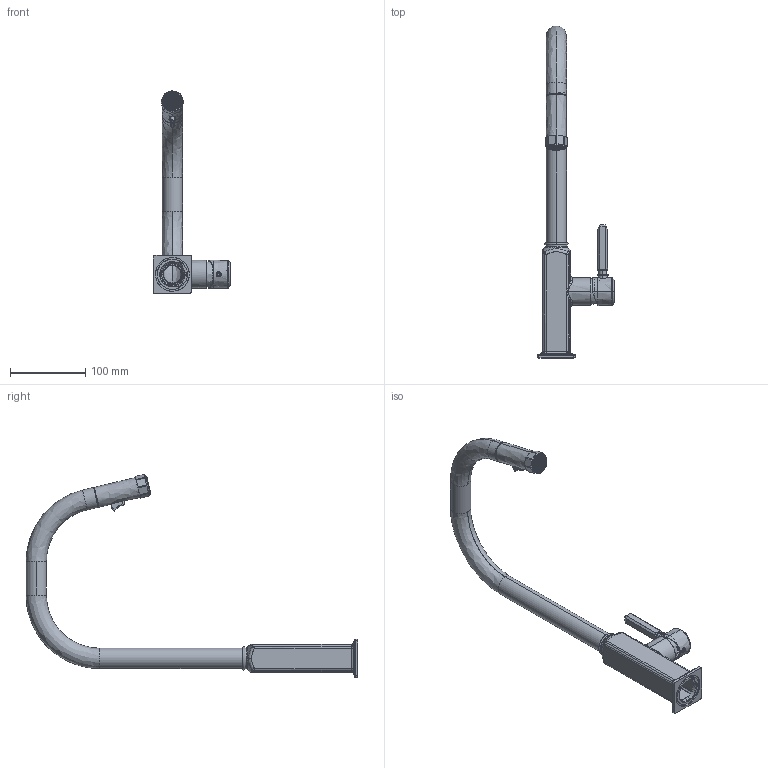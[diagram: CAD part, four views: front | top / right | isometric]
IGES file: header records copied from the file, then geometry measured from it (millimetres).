
Start section: SolidWorks IGES file using analytic representation for surfaces
Global section: file name: C:\Users\czhou\Desktop\0-Whole Project\6680\2409-REV_NF_ADHOC-02430\AP56D1LM\sku_AP56D1LM_igs.IGS; native system: SolidWorks 2023; preprocessor: SolidWorks 2023; author: czhou; date: 240913.113154; units: millimetre
Bounding box: 103 x 440.98 x 269.69 mm (x, y, z)
Surface area: 103947.2 mm2 (no closed solid volume)
Topology: 0 solids, 0 shells, 525 faces, 6809 edges, 6805 vertices
Faces by surface type: bspline 293, revolution 232
